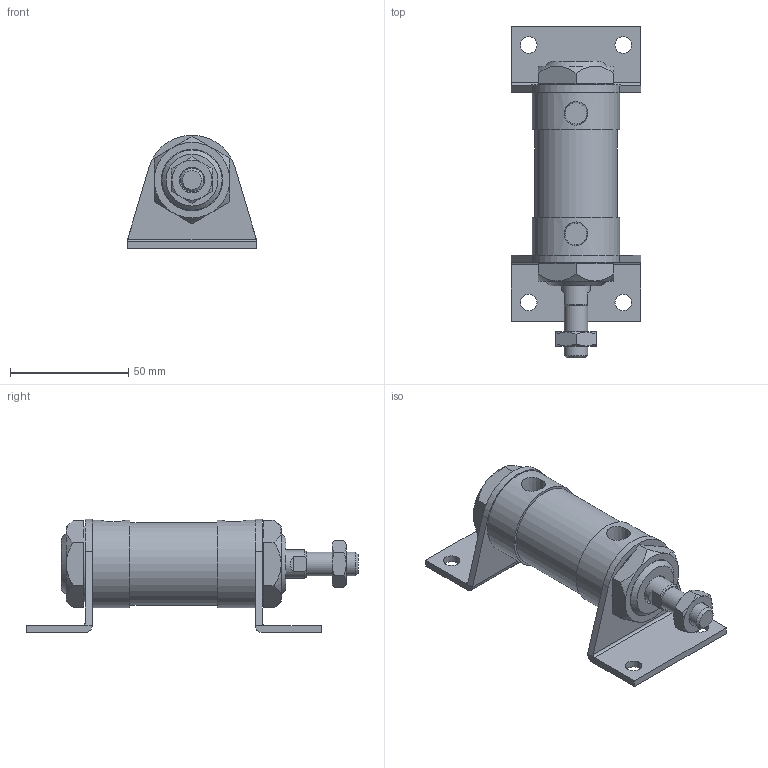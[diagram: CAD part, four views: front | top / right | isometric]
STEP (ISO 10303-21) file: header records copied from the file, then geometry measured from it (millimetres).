
FILE_DESCRIPTION(/* description */ ('Unknown'),/* implementation_level */ '2;1');
FILE_NAME(/* name */ 'WK30-LB',/* time_stamp */ '2026-07-17T16:32:48+08:00',/* author */ ('Unknown'),/* organization */ ('Unknown'),/* preprocessor_version */ 'ST-DEVELOPER v16.7',/* originating_system */ 'DEX',/* authorisation */ $);
FILE_SCHEMA (('CONFIG_CONTROL_DESIGN'));
Length unit declared in the file: millimetre
Products named in the file (8): WK30-LB; WK30_玡嶈搵; WK30_鋁; WK30_心軸活; WK30_岃搵; WK25_WK30_LB; M10-1.25P-6_螺; M26-1.5P-8_螺
Assembly tree (9 placements, depth 2):
  WK30-LB
    WK30_玡嶈搵
    WK30_鋁
    WK30_心軸活
    WK30_岃搵
    WK25_WK30_LB  x2
    M10-1.25P-6_螺
    M26-1.5P-8_螺  x2
Bounding box: 55 x 140.5 x 47.93 mm (x, y, z)
Volume: 109777.4 mm3; surface area: 45201.4 mm2
Topology: 9 solids, 9 shells, 144 faces, 315 edges, 195 vertices
Faces by surface type: plane 75, cone 40, cylinder 29
Full cylindrical faces by diameter (mm): 7 x4, 8.75 x1, 10 x1, 12 x2, 24.5 x2, 26 x4, 29.5 x1, 30 x1, 32 x4, 35 x1, 37 x2
Entity records: 3443 total; most frequent: CARTESIAN_POINT 597, DIRECTION 450, ORIENTED_EDGE 358, AXIS2_PLACEMENT_3D 198, EDGE_CURVE 179, EDGE_LOOP 156, FACE_BOUND 156, VERTEX_POINT 125
